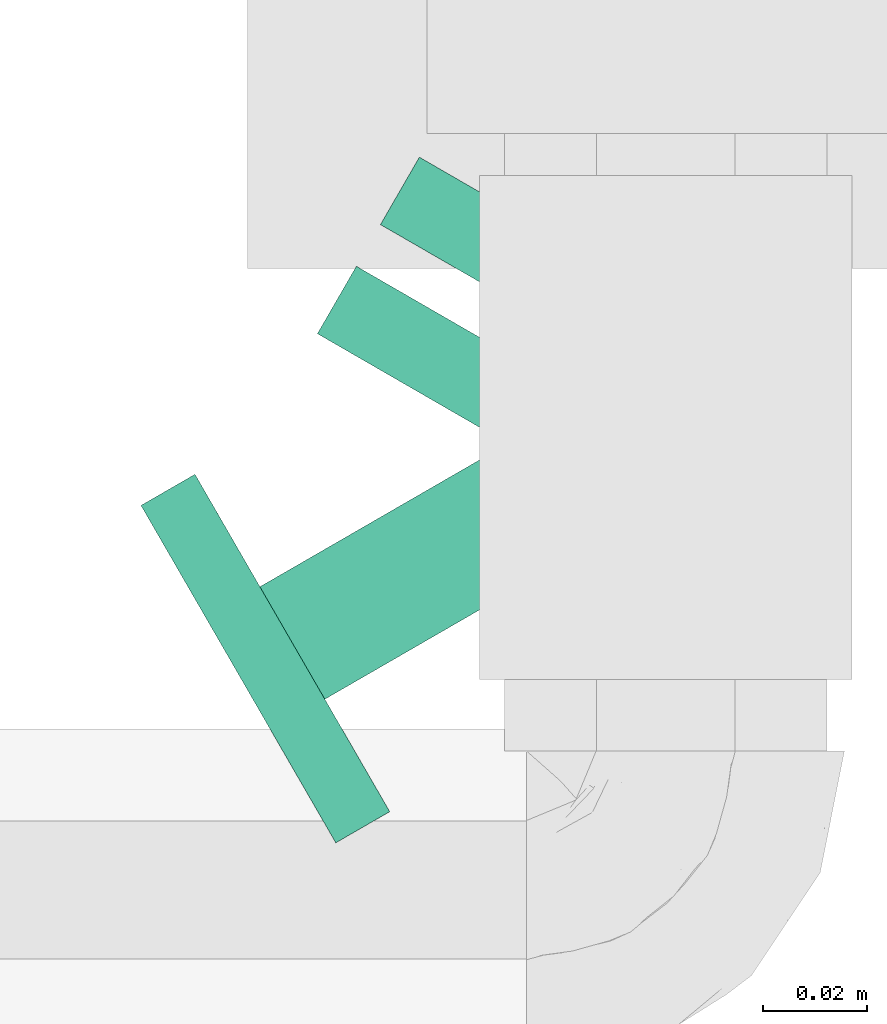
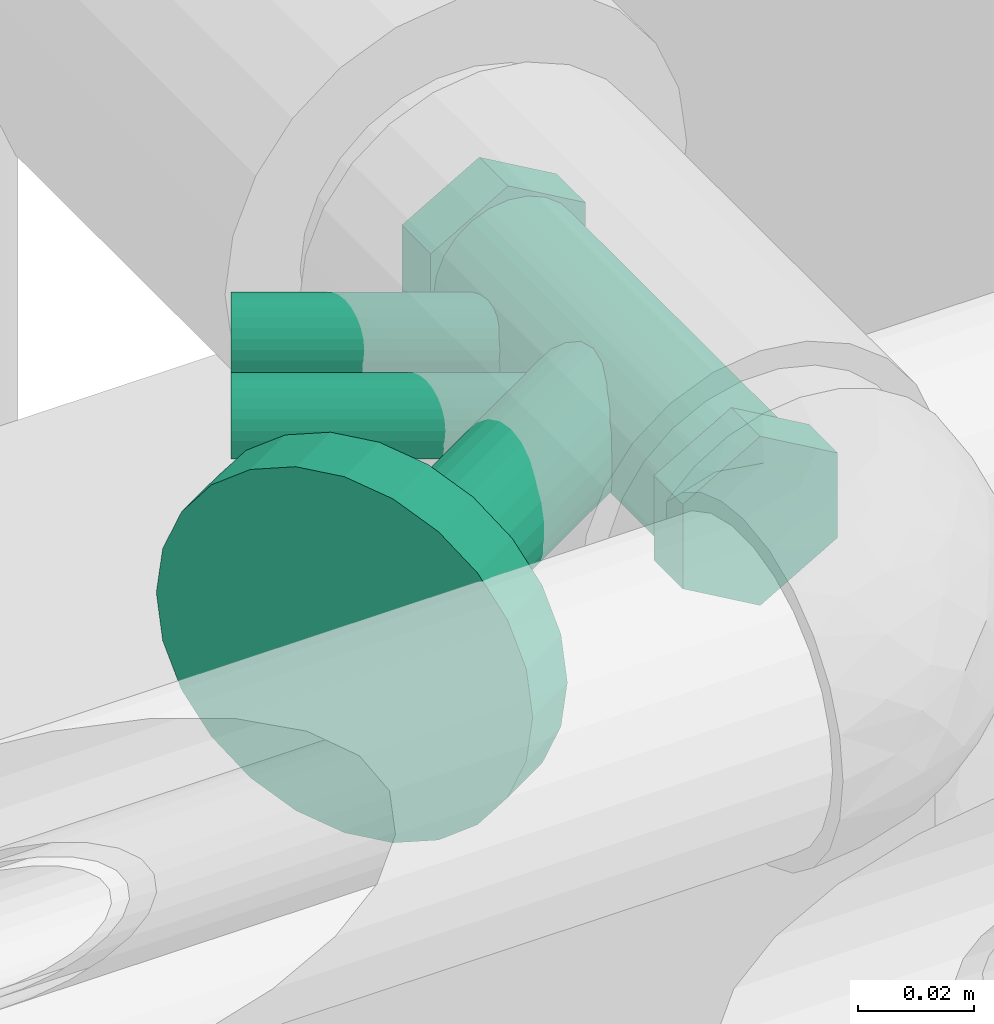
# One storey, part 10 of 13: 1 flow controller.
"""IFC2X3 building model written with IfcOpenShell, lengths in millimetres."""

from ifc_helpers import new_model, entity, si_unit, converted_unit, derived_unit, direction, frame, origin_with_axes, place, context, subcontext, project, spatial, open_shell, surface_model, source, transform, mapped, type_object, element, save


model = new_model("IFC2X3")

# Units and contexts
model_context = context("Model", 3, precision=0.01, world=frame((0.0, 4.29681676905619e-09, 0.0)), true_north=direction((4.01073788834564e-13, 1.0)))
plan_context = context("Plan", 3, precision=0.01, world=frame((0.0, 4.29681676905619e-09, 0.0)), true_north=direction((4.01073788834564e-13, 1.0)))
body_context = subcontext(model_context, "Body", "Model", "MODEL_VIEW")
ifc_project = project(units=[converted_unit("PLANEANGLEUNIT", "DEGREE", entity("IfcPositiveLengthMeasure", 0.0174532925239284), si_unit("PLANEANGLEUNIT", "RADIAN"), dimensions=[0, 0, 0, 0, 0, 0, 0]), si_unit("AREAUNIT", "SQUARE_METRE"), si_unit("LENGTHUNIT", "METRE", prefix="MILLI"), si_unit("MASSUNIT", "GRAM", prefix="KILO"), si_unit("POWERUNIT", "WATT"), si_unit("PRESSUREUNIT", "PASCAL"), si_unit("FORCEUNIT", "NEWTON", prefix="KILO"), si_unit("ELECTRICVOLTAGEUNIT", "VOLT"), si_unit("ELECTRICCURRENTUNIT", "AMPERE"), si_unit("THERMODYNAMICTEMPERATUREUNIT", "DEGREE_CELSIUS"), si_unit("TIMEUNIT", "SECOND"), si_unit("VOLUMEUNIT", "CUBIC_METRE"), derived_unit("LINEARVELOCITYUNIT", [(si_unit("LENGTHUNIT", "METRE"), 1), (si_unit("TIMEUNIT", "SECOND"), -1)]), derived_unit("VOLUMETRICFLOWRATEUNIT", [(si_unit("VOLUMEUNIT", "CUBIC_METRE"), 1), (si_unit("TIMEUNIT", "SECOND"), -1)]), derived_unit("THERMALTRANSMITTANCEUNIT", [(si_unit("POWERUNIT", "WATT"), 1), (si_unit("THERMODYNAMICTEMPERATUREUNIT", "KELVIN"), -1), (si_unit("AREAUNIT", "SQUARE_METRE"), -1)]), derived_unit("SOUNDPRESSUREUNIT", [(si_unit("PRESSUREUNIT", "PASCAL"), 1)])], contexts=[model_context, plan_context])

# Site, building, storey
site_placement = place(None, frame((0.0, -4.29681676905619e-09, 0.0), z_axis=(0.0, 0.0, 1.0), x_axis=(1.0, 0.0, 0.0)))
site = spatial("IfcSite", under=ifc_project, at=site_placement, Name="ENGM", CompositionType="ELEMENT")
building_placement = place(site_placement, frame((0.0, 4.29681676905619e-09, 0.0), z_axis=(0.0, 0.0, 1.0), x_axis=(1.0, 0.0, 0.0)))
building = spatial("IfcBuilding", under=site, at=building_placement, Name="TI", CompositionType="ELEMENT")
storey_placement = place(building_placement, frame((0.0, 0.0, 210900.0), z_axis=(0.0, 0.0, 1.0), x_axis=(1.0, 0.0, 0.0)))
storey = spatial("IfcBuildingStorey", under=building, at=storey_placement, Name="Nivå F", CompositionType="ELEMENT", Elevation=210900.0)

# Flow controller
valve_type = type_object("IfcValveType", Name="STAD/F-20", PredefinedType="NOTDEFINED")
shared_shape = source(origin_with_axes(), body_context, "Body", "SurfaceModel", [
    surface_model("IfcShellBasedSurfaceModel", [(5.41266, -10.82532, 3.125), (7.65466, -8.83883, 4.41942), (5.32606, -10.65211, 3.075), (2.75697, -11.88089, 1.59174), (0.0, -12.3, 0.0), (2.8018, -12.07407, 1.61762), (0.0, -12.5, 0.0), (7.53218, -8.69741, 4.34871), (10.45645, -3.23524, 6.03704), (10.65211, 0.0, 6.15), (10.28915, -3.18347, 5.94044), (10.82532, 0.0, 6.25), (9.375, -6.25, 5.41266), (9.225, -6.15, 5.32606), (-2.75697, -11.88089, -1.59174), (-2.8018, -12.07407, -1.61762), (-5.32606, -10.65211, -3.075), (-7.65466, -8.83883, -4.41942), (-5.41266, -10.82532, -3.125), (-7.53218, -8.69741, -4.34871), (-9.225, -6.15, -5.32606), (-9.375, -6.25, -5.41266), (-10.28915, -3.18347, -5.94044), (-10.45645, -3.23524, -6.03704), (-10.65211, 0.0, -6.15), (-10.82532, 0.0, -6.25), (10.45645, 3.23524, 6.03704), (10.28915, 3.18347, 5.94044), (9.225, 6.15, 5.32606), (9.375, 6.25, 5.41266), (7.53218, 8.69741, 4.34871), (7.65466, 8.83883, 4.41942), (5.41266, 10.82532, 3.125), (5.32606, 10.65211, 3.075), (2.75697, 11.88089, 1.59174), (2.8018, 12.07407, 1.61762), (0.0, 12.3, 0.0), (0.0, 12.5, 0.0), (-9.375, 6.25, -5.41266), (-9.225, 6.15, -5.32606), (-7.65466, 8.83883, -4.41942), (-7.53218, 8.69741, -4.34871), (-10.45645, 3.23524, -6.03704), (-10.28915, 3.18347, -5.94044), (-2.75697, 11.88089, -1.59174), (-2.8018, 12.07407, -1.61762), (-5.32606, 10.65211, -3.075), (-5.41266, 10.82532, -3.125), (78.86936, 9.70571, -64.16131), (70.46396, 26.5165, -69.01416), (75.625, 18.75, -66.03444), (24.53603, 26.5165, -95.53067), (16.13063, 9.70571, -100.38353), (19.37499, 18.75, -98.51039), (31.26202, 32.47595, -91.64741), (63.73797, -32.47595, -72.89742), (75.625, -18.75, -66.03444), (70.46396, -26.5165, -69.01416), (55.90539, -36.22222, -77.41956), (47.49999, -37.5, -82.27241), (69.625, -18.75, -55.64213), (57.73797, -32.47595, -62.50511), (64.46396, -26.5165, -58.62186), (10.13063, -9.70571, -89.99122), (10.13063, 9.70571, -89.99122), (9.02404, 0.0, -90.63011), (72.86936, -9.70571, -53.769), (64.46396, 26.5165, -58.62186), (72.86936, 9.70571, -53.769), (69.625, 18.75, -55.64213), (57.73797, 32.47595, -62.50511), (49.90539, 36.22222, -67.02725), (25.26202, 32.47595, -81.25511), (41.5, 37.5, -71.88011), (33.0946, 36.22222, -76.73297), (13.375, 18.75, -88.11809), (18.53603, 26.5165, -85.13836), (39.0946, 36.22222, -87.12527), (15.02404, 0.0, -101.02241), (47.49999, 37.5, -82.27241), (55.90539, 36.22222, -77.41956), (63.73797, 32.47595, -72.89742), (79.97595, 0.0, -63.52242), (73.97595, 0.0, -53.13011), (78.86936, -9.70571, -64.16131), (49.90539, -36.22222, -67.02725), (41.5, -37.5, -71.88011), (33.0946, -36.22222, -76.73297), (39.0946, -36.22222, -87.12527), (25.26202, -32.47595, -81.25511), (31.26202, -32.47595, -91.64741), (19.37499, -18.75, -98.51039), (18.53603, -26.5165, -85.13836), (13.375, -18.75, -88.11809), (24.53603, -26.5165, -95.53067), (16.13063, -9.70571, -100.38353), (46.91266, 10.82532, -68.75511), (49.15465, 8.83883, -67.46069), (46.82605, 10.65211, -68.80511), (44.25696, 11.88089, -70.28837), (41.5, 12.3, -71.88011), (44.30179, 12.07407, -70.26249), (41.5, 12.5, -71.88011), (49.03218, 8.69741, -67.5314), (51.95645, 3.23524, -65.84307), (52.15211, 0.0, -65.73011), (51.78915, 3.18347, -65.93967), (52.32531, 0.0, -65.63011), (50.875, 6.25, -66.46745), (50.725, 6.15, -66.55405), (38.74302, 11.88089, -73.47185), (38.6982, 12.07407, -73.49773), (36.17394, 10.65211, -74.95511), (33.84534, 8.83883, -76.29953), (36.08734, 10.82532, -75.00511), (33.96781, 8.69741, -76.22881), (32.275, 6.15, -77.20617), (32.125, 6.25, -77.29277), (31.21084, 3.18347, -77.82055), (31.04354, 3.23524, -77.91715), (30.84788, 0.0, -78.03011), (30.67468, 0.0, -78.13011), (51.95645, -3.23524, -65.84307), (51.78915, -3.18347, -65.93967), (50.725, -6.15, -66.55405), (50.875, -6.25, -66.46745), (49.03218, -8.69741, -67.5314), (49.15465, -8.83883, -67.46069), (46.91266, -10.82532, -68.75511), (46.82605, -10.65211, -68.80511), (44.25696, -11.88089, -70.28837), (44.30179, -12.07407, -70.26249), (41.5, -12.3, -71.88011), (41.5, -12.5, -71.88011), (32.125, -6.25, -77.29277), (32.275, -6.15, -77.20617), (33.84534, -8.83883, -76.29953), (33.96781, -8.69741, -76.22881), (31.04354, -3.23524, -77.91715), (31.21084, -3.18347, -77.82055), (38.74302, -11.88089, -73.47185), (38.6982, -12.07407, -73.49773), (36.17394, -10.65211, -74.95511), (36.08734, -10.82532, -75.00511), (48.5, 8.91, -15.43257), (48.5, 17.82, 0.0), (48.5, -8.91, -15.43257), (48.5, 8.91, 15.43257), (48.5, -8.91, 15.43257), (48.5, -17.82, 0.0), (38.5, -17.82, 0.0), (38.5, -8.91, 15.43257), (38.5, -8.91, -15.43257), (38.5, 8.91, 15.43257), (38.5, 17.82, 0.0), (38.5, 8.91, -15.43257), (-48.5, -8.91, -15.43257), (-48.5, -17.82, 0.0), (-48.5, 8.91, -15.43257), (-48.5, -8.91, 15.43257), (-48.5, 8.91, 15.43257), (-48.5, 17.82, 0.0), (-38.5, 17.82, 0.0), (-38.5, 8.91, 15.43257), (-38.5, 8.91, -15.43257), (-38.5, -8.91, 15.43257), (-38.5, -17.82, 0.0), (-38.5, -8.91, -15.43257), (38.5, 7.425, -12.86048), (38.5, -7.425, -12.86048), (38.5, 3.84346, -14.344), (38.5, 10.50054, -10.50054), (38.5, -14.344, 3.84346), (38.5, -3.84346, 14.344), (38.5, 12.86048, -7.425), (38.5, 14.344, -3.84346), (38.5, -10.50054, 10.50054), (38.5, 0.0, -14.85), (38.5, -3.84346, -14.344), (38.5, -10.50054, -10.50054), (38.5, -14.344, -3.84346), (38.5, -12.86048, -7.425), (38.5, 14.85, 0.0), (38.5, 14.344, 3.84346), (38.5, 12.86048, 7.425), (38.5, 10.50054, 10.50054), (38.5, 7.425, 12.86048), (38.5, 3.84346, 14.344), (38.5, 0.0, 14.85), (38.5, -12.86048, 7.425), (38.5, -14.85, 0.0), (38.5, -7.425, 12.86048), (-38.5, 0.0, 14.85), (-38.5, 3.84346, 14.344), (-38.5, 7.425, 12.86048), (-38.5, -3.84346, 14.344), (-38.5, 10.50054, 10.50054), (-38.5, 12.86048, 7.425), (-38.5, 14.344, 3.84346), (-38.5, -10.50054, 10.50054), (-38.5, -7.425, 12.86048), (-38.5, -14.344, 3.84346), (-38.5, -12.86048, 7.425), (-38.5, -14.344, -3.84346), (-38.5, -14.85, 0.0), (-38.5, 10.50054, -10.50054), (-38.5, 14.344, -3.84346), (-38.5, 12.86048, -7.425), (-38.5, 7.425, -12.86048), (-38.5, -7.425, -12.86048), (-38.5, 0.0, -14.85), (-38.5, 3.84346, -14.344), (-38.5, -10.50054, -10.50054), (-38.5, -12.86048, -7.425), (-38.5, -3.84346, -14.344), (-38.5, 14.85, 0.0), (-21.28648, 6.49519, -65.18525), (-29.12686, 5.3033, -60.6586), (-22.85299, 7.24444, -64.28082), (-18.90907, 3.75, -66.55784), (-19.94128, 5.3033, -65.9619), (-18.2602, 1.94114, -66.93247), (-18.03888, 0.0, -67.06025), (-31.02926, 0.0, -59.56025), (-26.21515, 7.24444, -62.33968), (-27.78167, 6.49519, -61.43524), (-24.53407, 7.5, -63.31025), (-30.15907, 3.75, -60.06265), (-30.80794, 1.94114, -59.68803), (-18.90907, -3.75, -66.55784), (-21.28648, -6.49519, -65.18525), (-19.94128, -5.3033, -65.9619), (-22.85299, -7.24444, -64.28082), (-24.53407, -7.5, -63.31025), (-29.12686, -5.3033, -60.6586), (-30.15907, -3.75, -60.06265), (-30.80794, -1.94114, -59.68803), (-26.21515, -7.24444, -62.33968), (-27.78167, -6.49519, -61.43524), (-18.2602, -1.94114, -66.93247), (11.647, -7.24444, -4.52506), (5.37313, -5.3033, -0.90284), (9.96592, -7.5, -3.55449), (14.55872, -5.3033, -6.20614), (13.21352, -6.49519, -5.42949), (16.2398, 1.94114, -7.17671), (15.59092, -3.75, -6.80209), (16.46111, 0.0, -7.30449), (8.28485, -7.24444, -2.58392), (6.71833, -6.49519, -1.67949), (3.69205, -1.94114, 0.06773), (4.34092, -3.75, -0.3069), (3.69205, 1.94114, 0.06773), (3.47073, 0.0, 0.19551), (16.2398, -1.94114, -7.17671), (11.647, 7.24444, -4.52506), (15.59092, 3.75, -6.80209), (14.55872, 5.3033, -6.20614), (13.21352, 6.49519, -5.42949), (6.71833, 6.49519, -1.67949), (5.37313, 5.3033, -0.90284), (4.34092, 3.75, -0.3069), (9.96592, 7.5, -3.55449), (8.28485, 7.24444, -2.58392), (-45.53519, 7.5, -51.18525), (-43.85411, 7.24444, -52.15582), (-42.28759, 6.49519, -53.06025), (-40.9424, 5.3033, -53.8369), (-51.80906, 1.94114, -47.56303), (-39.26132, 1.94114, -54.80747), (-39.91019, 3.75, -54.43284), (-51.80906, -1.94114, -47.56303), (-47.21627, 7.24444, -50.21468), (-50.12798, 5.3033, -48.5336), (-48.78278, 6.49519, -49.31025), (-51.16019, 3.75, -47.93765), (-39.04, 0.0, -54.93525), (-39.26132, -1.94114, -54.80747), (-39.91019, -3.75, -54.43284), (-40.9424, -5.3033, -53.8369), (-42.28759, -6.49519, -53.06025), (-43.85411, -7.24444, -52.15582), (-45.53519, -7.5, -51.18525), (-50.12798, -5.3033, -48.5336), (-51.16019, -3.75, -47.93765), (-52.03038, 0.0, -47.43525), (-47.21627, -7.24444, -50.21468), (-48.78278, -6.49519, -49.31025), (-19.35411, -7.24444, -9.72057), (-25.62798, -5.3033, -6.09835), (-21.03519, -7.5, -8.75), (-16.4424, -5.3033, -11.40165), (-17.7876, -6.49519, -10.625), (-15.41019, -3.75, -11.9976), (-14.76132, -1.94114, -12.37222), (-24.28279, -6.49519, -6.875), (-22.71627, -7.24444, -7.77943), (-26.66019, -3.75, -5.50241), (-27.30906, -1.94114, -5.12778), (-27.30906, 1.94114, -5.12778), (-27.53038, 0.0, -5.0), (-14.76132, 1.94114, -12.37222), (-19.35411, 7.24444, -9.72057), (-16.4424, 5.3033, -11.40165), (-15.41019, 3.75, -11.9976), (-17.7876, 6.49519, -10.625), (-25.62798, 5.3033, -6.09835), (-26.66019, 3.75, -5.50241), (-24.28279, 6.49519, -6.875), (-21.03519, 7.5, -8.75), (-22.71627, 7.24444, -7.77943), (-14.54, 0.0, -12.5)], [open_shell([[[0, 1, 2]], [[0, 2, 3]], [[4, 5, 3]], [[5, 4, 6]], [[3, 5, 0]], [[2, 1, 7]], [[8, 9, 10]], [[9, 8, 11]], [[8, 10, 12]], [[7, 12, 13]], [[12, 7, 1]], [[13, 12, 10]], [[6, 14, 15]], [[15, 14, 16]], [[17, 18, 19]], [[16, 18, 15]], [[16, 19, 18]], [[6, 4, 14]], [[20, 21, 17]], [[21, 20, 22]], [[20, 17, 19]], [[23, 22, 24]], [[22, 23, 21]], [[23, 24, 25]], [[11, 26, 27]], [[27, 26, 28]], [[28, 29, 30]], [[29, 28, 26]], [[30, 29, 31]], [[31, 32, 33]], [[33, 32, 34]], [[34, 35, 36]], [[35, 34, 32]], [[36, 35, 37]], [[33, 30, 31]], [[38, 39, 40]], [[40, 39, 41]], [[39, 38, 42]], [[25, 43, 42]], [[42, 43, 39]], [[25, 24, 43]], [[44, 37, 45]], [[44, 45, 46]], [[41, 47, 40]], [[41, 46, 47]], [[47, 46, 45]], [[36, 37, 44]], [[27, 9, 11]], [[48, 49, 50]], [[51, 52, 53]], [[52, 51, 54]], [[55, 56, 57]], [[55, 58, 59]], [[60, 61, 62]], [[63, 64, 65]], [[63, 66, 67]], [[66, 68, 67]], [[67, 68, 69]], [[67, 70, 71]], [[72, 73, 74]], [[64, 52, 65]], [[75, 53, 64]], [[54, 76, 72]], [[75, 76, 51]], [[77, 72, 74]], [[64, 53, 52]], [[52, 78, 65]], [[77, 54, 72]], [[51, 76, 54]], [[51, 53, 75]], [[79, 77, 74]], [[74, 73, 79]], [[71, 80, 73]], [[70, 81, 71]], [[50, 67, 69]], [[70, 67, 49]], [[48, 69, 68]], [[70, 49, 81]], [[81, 80, 71]], [[82, 48, 68]], [[50, 69, 48]], [[50, 49, 67]], [[83, 82, 68]], [[73, 80, 79]], [[66, 84, 83]], [[60, 56, 66]], [[55, 62, 61]], [[60, 62, 57]], [[58, 61, 85]], [[66, 56, 84]], [[84, 82, 83]], [[58, 55, 61]], [[57, 62, 55]], [[57, 56, 60]], [[59, 58, 85]], [[85, 86, 59]], [[87, 88, 86]], [[89, 90, 87]], [[91, 92, 93]], [[89, 92, 94]], [[95, 93, 63]], [[89, 94, 90]], [[90, 88, 87]], [[78, 95, 63]], [[91, 93, 95]], [[91, 94, 92]], [[65, 78, 63]], [[86, 88, 59]], [[96, 97, 98]], [[96, 98, 99]], [[100, 101, 99]], [[101, 100, 102]], [[99, 101, 96]], [[98, 97, 103]], [[104, 105, 106]], [[105, 104, 107]], [[104, 106, 108]], [[103, 108, 109]], [[108, 103, 97]], [[109, 108, 106]], [[102, 110, 111]], [[111, 110, 112]], [[113, 114, 115]], [[112, 114, 111]], [[112, 115, 114]], [[102, 100, 110]], [[116, 117, 113]], [[117, 116, 118]], [[116, 113, 115]], [[119, 118, 120]], [[118, 119, 117]], [[119, 120, 121]], [[107, 122, 123]], [[123, 122, 124]], [[124, 125, 126]], [[125, 124, 122]], [[126, 125, 127]], [[127, 128, 129]], [[129, 128, 130]], [[130, 131, 132]], [[131, 130, 128]], [[132, 131, 133]], [[129, 126, 127]], [[134, 135, 136]], [[136, 135, 137]], [[135, 134, 138]], [[121, 139, 138]], [[138, 139, 135]], [[121, 120, 139]], [[140, 133, 141]], [[140, 141, 142]], [[137, 143, 136]], [[137, 142, 143]], [[143, 142, 141]], [[132, 133, 140]], [[123, 105, 107]], [[42, 119, 25]], [[38, 117, 42]], [[114, 40, 47]], [[38, 40, 113]], [[111, 47, 45]], [[42, 117, 119]], [[119, 121, 25]], [[111, 114, 47]], [[113, 40, 114]], [[113, 117, 38]], [[102, 111, 45]], [[45, 37, 102]], [[35, 101, 37]], [[32, 96, 35]], [[108, 31, 29]], [[32, 31, 97]], [[104, 29, 26]], [[32, 97, 96]], [[96, 101, 35]], [[107, 104, 26]], [[108, 29, 104]], [[108, 97, 31]], [[11, 107, 26]], [[37, 101, 102]], [[8, 122, 11]], [[12, 125, 8]], [[128, 1, 0]], [[12, 1, 127]], [[131, 0, 5]], [[11, 122, 107]], [[8, 125, 122]], [[1, 128, 127]], [[12, 127, 125]], [[0, 131, 128]], [[5, 133, 131]], [[5, 6, 133]], [[15, 141, 6]], [[18, 143, 15]], [[134, 17, 21]], [[18, 17, 136]], [[134, 21, 23]], [[141, 15, 143]], [[143, 18, 136]], [[25, 121, 138]], [[134, 23, 138]], [[134, 136, 17]], [[23, 25, 138]], [[6, 141, 133]], [[24, 118, 43]], [[43, 116, 39]], [[46, 41, 112]], [[115, 41, 39]], [[44, 46, 110]], [[120, 118, 24]], [[118, 116, 43]], [[44, 110, 100]], [[115, 39, 116]], [[112, 41, 115]], [[112, 110, 46]], [[100, 36, 44]], [[30, 33, 98]], [[27, 28, 109]], [[103, 28, 30]], [[9, 27, 106]], [[98, 34, 99]], [[34, 100, 99]], [[98, 33, 34]], [[103, 30, 98]], [[109, 28, 103]], [[27, 109, 106]], [[106, 105, 9]], [[36, 100, 34]], [[9, 123, 10]], [[10, 124, 13]], [[2, 7, 129]], [[126, 7, 13]], [[3, 2, 130]], [[105, 123, 9]], [[123, 124, 10]], [[130, 132, 4]], [[126, 13, 124]], [[2, 129, 130]], [[126, 129, 7]], [[4, 3, 130]], [[16, 14, 142]], [[16, 142, 19]], [[22, 20, 135]], [[137, 20, 19]], [[24, 22, 139]], [[4, 140, 14]], [[140, 142, 14]], [[132, 140, 4]], [[142, 137, 19]], [[135, 20, 137]], [[139, 22, 135]], [[139, 120, 24]], [[144, 145, 146]], [[146, 145, 147]], [[146, 148, 149]], [[148, 146, 147]], [[150, 151, 152]], [[152, 151, 153]], [[154, 155, 152]], [[154, 152, 153]], [[148, 147, 153]], [[153, 151, 148]], [[149, 148, 151]], [[151, 150, 149]], [[146, 149, 150]], [[150, 152, 146]], [[144, 146, 152]], [[152, 155, 144]], [[145, 144, 155]], [[155, 154, 145]], [[147, 145, 154]], [[154, 153, 147]], [[156, 157, 158]], [[158, 157, 159]], [[158, 160, 161]], [[160, 158, 159]], [[162, 163, 164]], [[164, 163, 165]], [[166, 167, 164]], [[166, 164, 165]], [[160, 159, 165]], [[165, 163, 160]], [[161, 160, 163]], [[163, 162, 161]], [[158, 161, 162]], [[162, 164, 158]], [[156, 158, 164]], [[164, 167, 156]], [[157, 156, 167]], [[167, 166, 157]], [[159, 157, 166]], [[166, 165, 159]], [[80, 81, 49]], [[79, 80, 49]], [[52, 49, 48]], [[84, 52, 48]], [[77, 52, 54]], [[77, 79, 49]], [[49, 52, 77]], [[48, 82, 84]], [[56, 78, 84]], [[55, 59, 56]], [[94, 56, 59]], [[95, 94, 91]], [[94, 95, 78]], [[59, 90, 94]], [[94, 78, 56]], [[88, 90, 59]], [[84, 78, 52]], [[85, 92, 86]], [[66, 85, 61]], [[60, 66, 61]], [[92, 85, 66]], [[87, 92, 89]], [[87, 86, 92]], [[92, 63, 93]], [[66, 63, 92]], [[72, 63, 67]], [[73, 67, 71]], [[75, 72, 76]], [[64, 63, 75]], [[75, 63, 72]], [[73, 72, 67]], [[68, 66, 83]], [[168, 169, 170]], [[171, 172, 168]], [[173, 174, 175]], [[176, 171, 174]], [[172, 169, 168]], [[177, 169, 178]], [[177, 170, 169]], [[179, 180, 181]], [[180, 179, 169]], [[169, 172, 180]], [[175, 182, 183]], [[183, 184, 185]], [[183, 185, 186]], [[186, 187, 188]], [[183, 186, 173]], [[173, 186, 188]], [[172, 176, 189]], [[190, 180, 172]], [[176, 173, 191]], [[172, 171, 176]], [[176, 174, 173]], [[183, 173, 175]], [[192, 193, 194]], [[195, 192, 194]], [[196, 197, 198]], [[195, 194, 196]], [[195, 196, 198]], [[195, 199, 200]], [[199, 195, 201]], [[199, 201, 202]], [[195, 198, 201]], [[201, 203, 204]], [[201, 198, 205]], [[206, 207, 198]], [[207, 205, 198]], [[208, 209, 201]], [[201, 205, 208]], [[210, 208, 211]], [[203, 212, 213]], [[212, 203, 209]], [[209, 210, 214]], [[203, 201, 209]], [[208, 210, 209]], [[198, 215, 206]], [[180, 203, 213]], [[212, 181, 213]], [[169, 209, 214]], [[212, 209, 179]], [[178, 214, 210]], [[203, 190, 204]], [[203, 180, 190]], [[213, 181, 180]], [[212, 179, 181]], [[169, 179, 209]], [[214, 178, 169]], [[210, 177, 178]], [[170, 211, 208]], [[205, 168, 208]], [[174, 207, 206]], [[205, 207, 171]], [[175, 206, 215]], [[211, 170, 177]], [[208, 168, 170]], [[205, 171, 168]], [[207, 174, 171]], [[175, 174, 206]], [[215, 182, 175]], [[211, 177, 210]], [[215, 198, 183]], [[186, 194, 193]], [[194, 185, 196]], [[187, 193, 192]], [[215, 183, 182]], [[183, 198, 197]], [[183, 197, 184]], [[197, 196, 184]], [[184, 196, 185]], [[185, 194, 186]], [[193, 187, 186]], [[192, 188, 187]], [[173, 195, 200]], [[199, 191, 200]], [[189, 202, 201]], [[199, 202, 176]], [[172, 201, 204]], [[195, 173, 188]], [[200, 191, 173]], [[199, 176, 191]], [[202, 189, 176]], [[172, 189, 201]], [[204, 190, 172]], [[195, 188, 192]], [[216, 217, 218]], [[219, 216, 220]], [[219, 221, 222]], [[219, 222, 216]], [[223, 217, 216]], [[224, 217, 225]], [[224, 226, 218]], [[227, 223, 228]], [[224, 218, 217]], [[227, 217, 223]], [[223, 216, 222]], [[222, 229, 230]], [[230, 229, 231]], [[230, 232, 233]], [[222, 230, 234]], [[234, 230, 233]], [[223, 235, 236]], [[235, 223, 234]], [[234, 237, 238]], [[223, 222, 234]], [[233, 237, 234]], [[222, 239, 229]], [[240, 241, 242]], [[243, 240, 244]], [[241, 243, 245]], [[243, 241, 240]], [[243, 246, 247]], [[248, 241, 249]], [[248, 242, 241]], [[241, 250, 251]], [[241, 252, 250]], [[250, 252, 253]], [[246, 254, 247]], [[252, 241, 245]], [[255, 245, 256]], [[257, 258, 255]], [[257, 255, 256]], [[259, 245, 255]], [[252, 260, 261]], [[260, 252, 259]], [[259, 262, 263]], [[259, 252, 245]], [[255, 262, 259]], [[245, 243, 247]], [[252, 228, 253]], [[261, 227, 252]], [[225, 260, 259]], [[261, 260, 217]], [[224, 259, 263]], [[252, 227, 228]], [[228, 223, 253]], [[224, 225, 259]], [[217, 260, 225]], [[217, 227, 261]], [[226, 224, 263]], [[263, 262, 226]], [[255, 218, 262]], [[258, 216, 255]], [[219, 257, 256]], [[258, 257, 220]], [[221, 256, 245]], [[258, 220, 216]], [[216, 218, 255]], [[222, 221, 245]], [[219, 256, 221]], [[219, 220, 257]], [[247, 222, 245]], [[262, 218, 226]], [[254, 239, 247]], [[246, 229, 254]], [[230, 243, 244]], [[246, 243, 231]], [[232, 244, 240]], [[247, 239, 222]], [[254, 229, 239]], [[243, 230, 231]], [[246, 231, 229]], [[244, 232, 230]], [[240, 233, 232]], [[240, 242, 233]], [[248, 237, 242]], [[249, 238, 248]], [[235, 241, 251]], [[249, 241, 234]], [[236, 251, 250]], [[237, 248, 238]], [[238, 249, 234]], [[253, 223, 236]], [[235, 251, 236]], [[235, 234, 241]], [[250, 253, 236]], [[242, 237, 233]], [[264, 265, 266]], [[267, 264, 266]], [[268, 267, 269]], [[269, 267, 270]], [[271, 268, 269]], [[272, 273, 274]], [[273, 272, 264]], [[273, 268, 275]], [[268, 273, 264]], [[264, 267, 268]], [[269, 276, 277]], [[277, 278, 279]], [[280, 269, 279]], [[269, 281, 271]], [[269, 280, 281]], [[271, 281, 282]], [[271, 283, 284]], [[285, 268, 271]], [[283, 286, 287]], [[286, 283, 271]], [[282, 286, 271]], [[269, 277, 279]], [[288, 289, 290]], [[291, 288, 292]], [[291, 293, 294]], [[291, 294, 288]], [[289, 288, 294]], [[290, 295, 296]], [[290, 289, 295]], [[294, 297, 289]], [[298, 297, 294]], [[298, 299, 300]], [[298, 294, 301]], [[298, 301, 302]], [[303, 301, 304]], [[305, 302, 301]], [[305, 301, 303]], [[298, 302, 299]], [[299, 306, 307]], [[306, 299, 308]], [[308, 309, 310]], [[308, 299, 302]], [[302, 309, 308]], [[301, 294, 311]], [[299, 268, 300]], [[307, 275, 299]], [[274, 306, 308]], [[307, 306, 273]], [[272, 308, 310]], [[299, 275, 268]], [[268, 285, 300]], [[272, 274, 308]], [[273, 306, 274]], [[273, 275, 307]], [[264, 272, 310]], [[310, 309, 264]], [[302, 265, 309]], [[305, 266, 302]], [[270, 303, 304]], [[305, 303, 267]], [[269, 304, 301]], [[305, 267, 266]], [[266, 265, 302]], [[276, 269, 301]], [[270, 304, 269]], [[270, 267, 303]], [[311, 276, 301]], [[309, 265, 264]], [[294, 277, 311]], [[293, 278, 294]], [[280, 291, 292]], [[293, 291, 279]], [[281, 292, 288]], [[294, 278, 277]], [[277, 276, 311]], [[281, 280, 292]], [[279, 291, 280]], [[279, 278, 293]], [[282, 281, 288]], [[288, 290, 282]], [[296, 286, 290]], [[295, 287, 296]], [[284, 289, 297]], [[295, 289, 283]], [[271, 297, 298]], [[295, 283, 287]], [[287, 286, 296]], [[285, 271, 298]], [[284, 297, 271]], [[284, 283, 289]], [[300, 285, 298]], [[290, 286, 282]]])]),
])
flow_controller_placement = place(storey_placement, frame((610086.18538, 691331.05306, 2740.0), z_axis=(1.0, 0.0, 0.0), x_axis=(0.0, -1.0, 0.0)))
element("IfcFlowController", 1, at=flow_controller_placement, inside=storey, type_object=valve_type, Name="STAD/F-20", context=body_context, shape_type="MappedRepresentation", body=[
    mapped(shared_shape, transform((0.0, 0.0, 0.0), scale=1.0)),
])

save(model, "model.ifc")
